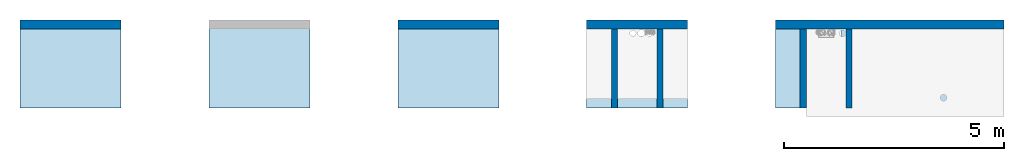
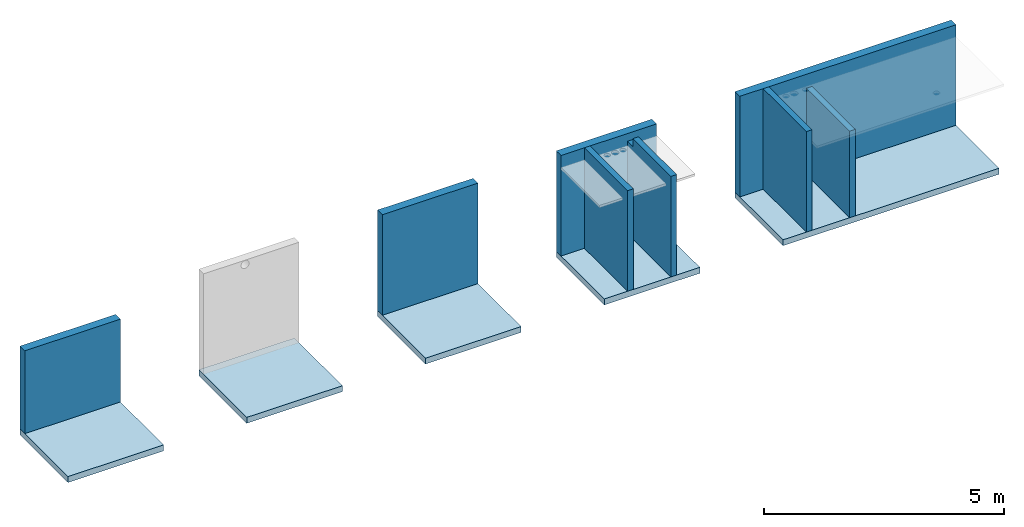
# One storey, part 1 of 3: 8 walls, 5 slabs, 1 opening.
"""IFC4 building model written with IfcOpenShell, lengths in millimetres."""

from ifc_helpers import new_model, entity, si_unit, converted_unit, derived_unit, direction, frame, origin, place, context, subcontext, project, spatial, indexed_curve, outline, extrude, polygons, material, layer, layer_set, type_object, element, save


model = new_model("IFC4")

# Units and contexts
model_context = context("Model", 3, precision=0.01, world=origin(), true_north=direction((6.12303176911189e-17, 1.0)))
body_context = subcontext(model_context, "Body", "Model", "MODEL_VIEW")
ifc_project = project(units=[si_unit("LENGTHUNIT", "METRE", prefix="MILLI"), si_unit("AREAUNIT", "SQUARE_METRE"), si_unit("VOLUMEUNIT", "CUBIC_METRE"), converted_unit("PLANEANGLEUNIT", "DEGREE", entity("IfcRatioMeasure", 0.0174532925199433), si_unit("PLANEANGLEUNIT", "RADIAN"), dimensions=[0, 0, 0, 0, 0, 0, 0]), si_unit("MASSUNIT", "GRAM", prefix="KILO"), derived_unit("MASSDENSITYUNIT", [(si_unit("MASSUNIT", "GRAM", prefix="KILO"), 1), (si_unit("LENGTHUNIT", "METRE"), -3)]), si_unit("TIMEUNIT", "SECOND"), si_unit("FREQUENCYUNIT", "HERTZ"), si_unit("THERMODYNAMICTEMPERATUREUNIT", "DEGREE_CELSIUS"), derived_unit("THERMALTRANSMITTANCEUNIT", [(si_unit("MASSUNIT", "GRAM", prefix="KILO"), 1), (si_unit("THERMODYNAMICTEMPERATUREUNIT", "KELVIN"), -1), (si_unit("TIMEUNIT", "SECOND"), -3)]), derived_unit("VOLUMETRICFLOWRATEUNIT", [(si_unit("LENGTHUNIT", "METRE"), 3), (si_unit("TIMEUNIT", "SECOND"), -1)]), si_unit("ELECTRICCURRENTUNIT", "AMPERE"), si_unit("ELECTRICVOLTAGEUNIT", "VOLT"), si_unit("POWERUNIT", "WATT"), si_unit("FORCEUNIT", "NEWTON", prefix="KILO"), si_unit("ILLUMINANCEUNIT", "LUX"), si_unit("LUMINOUSFLUXUNIT", "LUMEN"), si_unit("LUMINOUSINTENSITYUNIT", "CANDELA"), derived_unit("USERDEFINED", [(si_unit("MASSUNIT", "GRAM", prefix="KILO"), -1), (si_unit("LENGTHUNIT", "METRE"), -2), (si_unit("TIMEUNIT", "SECOND"), 3), (si_unit("LUMINOUSFLUXUNIT", "LUMEN"), 1)]), derived_unit("LINEARVELOCITYUNIT", [(si_unit("LENGTHUNIT", "METRE"), 1), (si_unit("TIMEUNIT", "SECOND"), -1)]), si_unit("PRESSUREUNIT", "PASCAL"), derived_unit("USERDEFINED", [(si_unit("LENGTHUNIT", "METRE"), -2), (si_unit("MASSUNIT", "GRAM", prefix="KILO"), 1), (si_unit("TIMEUNIT", "SECOND"), -2)])], contexts=[model_context])

# Site, building, storey
site_placement = place(None, origin())
site = spatial("IfcSite", under=ifc_project, at=site_placement, Name="Default", CompositionType="ELEMENT")
building_placement = place(site_placement, origin())
building = spatial("IfcBuilding", under=site, at=building_placement, CompositionType="ELEMENT")
storey_placement = place(building_placement, frame((0.0, 0.0, 113.901971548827)))
storey = spatial("IfcBuildingStorey", under=building, at=storey_placement, Name="Level 1", CompositionType="ELEMENT", Elevation=113.901971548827)

# Slabs
ifc_material_1 = material(Name="Default Floor", Category="Materials")
ifc_layer_1 = layer(ifc_material_1, 150.0, Name="Default Floor", Category="Materials")
ifc_layer_set_1 = layer_set([ifc_layer_1], Name="Floor:Generic 150mm (c)")
slab_type_1 = type_object("IfcSlabType", Name="Floor:Generic 150mm (c)", PredefinedType="FLOOR", material=ifc_layer_set_1)
slab_1_placement = place(storey_placement, origin())
element("IfcSlab", 1, at=slab_1_placement, inside=storey, type_object=slab_type_1, Name="Floor:Generic 150mm (c)", ObjectType="Floor:Generic 150mm (c)", PredefinedType="FLOOR", context=body_context, shape_type="SweptSolid", body=[
    extrude(outline(indexed_curve([(-1000.0, -1150.0), (1000.0, -1150.0), (1000.0, 1150.0), (-1000.0, 1150.0), (-1000.0, -1150.0)], self_intersect=False)), frame((-6434.88811146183, 2592.24351176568, 0.0), z_axis=(0.0, 0.0, -1.0), x_axis=(0.0, 1.0, 0.0)), (0.0, 0.0, 1.0), 150.0),
])
slab_type_2 = type_object("IfcSlabType", Name="Floor:Generic 150mm (c)", PredefinedType="FLOOR", material=ifc_layer_set_1)
slab_2_placement = place(storey_placement, origin())
element("IfcSlab", 2, at=slab_2_placement, inside=storey, type_object=slab_type_2, Name="Floor:Generic 150mm (c)", ObjectType="Floor:Generic 150mm (c)", PredefinedType="FLOOR", context=body_context, shape_type="SweptSolid", body=[
    extrude(outline(indexed_curve([(-1000.0, -1150.0), (1000.0, -1150.0), (1000.0, 1150.0), (-1000.0, 1150.0), (-1000.0, -1150.0)], self_intersect=False)), frame((-15034.8881114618, 2592.24351176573, 0.0), z_axis=(0.0, 0.0, -1.0), x_axis=(0.0, 1.0, 0.0)), (0.0, 0.0, 1.0), 150.0),
])
slab_type_3 = type_object("IfcSlabType", Name="Floor:Generic 150mm (c)", PredefinedType="FLOOR", material=ifc_layer_set_1)
slab_3_placement = place(storey_placement, origin())
element("IfcSlab", 3, at=slab_3_placement, inside=storey, type_object=slab_type_3, Name="Floor:Generic 150mm (c)", ObjectType="Floor:Generic 150mm (c)", PredefinedType="FLOOR", context=body_context, shape_type="SweptSolid", body=[
    extrude(outline(indexed_curve([(-1000.0, -1150.0), (1000.0, -1150.0), (1000.0, 1150.0), (-1000.0, 1150.0), (-1000.0, -1150.0)], self_intersect=False)), frame((-10734.8881114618, 2592.24351176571, 0.0), z_axis=(0.0, 0.0, -1.0), x_axis=(0.0, 1.0, 0.0)), (0.0, 0.0, 1.0), 150.0),
])
slab_type_4 = type_object("IfcSlabType", Name="Floor:Generic 150mm (c)", PredefinedType="FLOOR", material=ifc_layer_set_1)
slab_4_placement = place(storey_placement, origin())
element("IfcSlab", 4, at=slab_4_placement, inside=storey, type_object=slab_type_4, Name="Floor:Generic 150mm (c)", ObjectType="Floor:Generic 150mm (c)", PredefinedType="FLOOR", context=body_context, shape_type="SweptSolid", body=[
    extrude(outline(indexed_curve([(-2600.0, -1000.0), (2600.0, -1000.0), (2600.0, 1000.0), (-2600.0, 1000.0), (-2600.0, -1000.0)], self_intersect=False), holes=[indexed_curve([(1097.90010249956, -619.999999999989), (1801.99999999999, -619.999999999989), (1801.99999999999, -799.999999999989), (1097.90010249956, -799.999999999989), (1097.90010249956, -619.999999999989)], self_intersect=False)]), frame((3615.11188853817, 2592.24351176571, -150.0), z_axis=(0.0, 0.0, 1.0), x_axis=(-1.0, 0.0, 0.0)), (0.0, 0.0, 1.0), 150.0),
])
slab_type_5 = type_object("IfcSlabType", Name="Floor:Generic 150mm (c)", PredefinedType="FLOOR", material=ifc_layer_set_1)
slab_5_placement = place(storey_placement, origin())
element("IfcSlab", 5, at=slab_5_placement, inside=storey, type_object=slab_type_5, Name="Floor:Generic 150mm (c)", ObjectType="Floor:Generic 150mm (c)", PredefinedType="FLOOR", context=body_context, shape_type="SweptSolid", body=[
    extrude(outline(indexed_curve([(-1150.0, -1000.0), (1150.0, -1000.0), (1150.0, 1000.0), (-1150.0, 1000.0), (-1150.0, -1000.0)], self_intersect=False), holes=[indexed_curve([(-352.099897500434, -799.999999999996), (-352.099897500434, -619.999999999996), (351.999999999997, -619.999999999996), (351.999999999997, -799.999999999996), (-352.099897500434, -799.999999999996)], self_intersect=False)]), frame((-2134.88811146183, 2592.2435117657, -150.0), z_axis=(0.0, 0.0, 1.0), x_axis=(-1.0, 0.0, 0.0)), (0.0, 0.0, 1.0), 150.0),
])

# Walls
ifc_material_2 = material(Name="Default Wall", Category="Materials")
ifc_layer_2 = layer(ifc_material_2, 200.0, Name="Default Wall", Category="Materials")
ifc_layer_set_2 = layer_set([ifc_layer_2], Name="Basic Wall:Generic - 200mm")
wall_type_1 = type_object("IfcWallType", Name="Basic Wall:Generic - 200mm", PredefinedType="NOTDEFINED", material=ifc_layer_set_2)
wall_1_placement = place(storey_placement, frame((-7584.88811146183, 3492.24351176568, 0.0)))
element("IfcWall", 6, at=wall_1_placement, inside=storey, type_object=wall_type_1, material=ifc_layer_set_2, Name="Basic Wall:Generic - 200mm", ObjectType="Basic Wall:Generic - 200mm", PredefinedType="NOTDEFINED", context=body_context, shape_type="Tessellation", body=[
    polygons([(7.31780616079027e-13, -100.0, 0.0), (2300.0, -100.0, 0.0), (2300.0, -100.0, 2556.96769015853), (1645.0, -100.0, 2556.96769015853), (610.000000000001, -100.0, 2556.96769015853), (7.31780616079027e-13, -100.0, 2556.96769015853), (1.15551123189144e-12, 100.0, 0.0), (1.15551123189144e-12, 100.0, 2556.96769015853), (2300.0, 100.0, 2556.96769015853), (2300.0, 100.0, 0.0)], [[[6, 1, 2, 3, 4, 5]], [[9, 10, 7, 8]], [[2, 1, 7, 10]], [[3, 2, 10, 9]], [[1, 6, 8, 7]], [[4, 3, 9, 8, 6, 5]]], closed=True),
])
wall_2_placement = place(storey_placement, frame((-16184.8881114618, 3492.24351176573, 0.0)))
element("IfcWall", 7, at=wall_2_placement, inside=storey, type_object=wall_type_1, material=ifc_layer_set_2, Name="Basic Wall:Generic - 200mm", ObjectType="Basic Wall:Generic - 200mm", PredefinedType="NOTDEFINED", context=body_context, shape_type="SweptSolid", body=[
    extrude(outline(indexed_curve([(2300.0, 100.0), (-3.29568256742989e-13, 100.0), (3.29568256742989e-13, -100.0), (2300.0, -100.0), (2300.0, 100.0)], self_intersect=False)), origin(), (0.0, 0.0, 1.0), 2106.99999999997),
])
wall_3_placement = place(storey_placement, frame((1015.11188853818, 3492.24351176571, 0.0)))
element("IfcWall", 8, at=wall_3_placement, inside=storey, type_object=wall_type_1, material=ifc_layer_set_2, Name="Basic Wall:Generic - 200mm", ObjectType="Basic Wall:Generic - 200mm", PredefinedType="NOTDEFINED", context=body_context, shape_type="SweptSolid", body=[
    extrude(outline(indexed_curve([(5200.0, 100.0), (-6.24731036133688e-14, 100.0), (6.24731036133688e-14, -100.0), (5200.0, -100.0), (5200.0, 100.0)], self_intersect=False)), origin(), (0.0, 0.0, 1.0), 2556.96769015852),
])
wall_4_placement = place(storey_placement, frame((-3284.88811146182, 3492.2435117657, 0.0)))
element("IfcWall", 9, at=wall_4_placement, inside=storey, type_object=wall_type_1, material=ifc_layer_set_2, Name="Basic Wall:Generic - 200mm", ObjectType="Basic Wall:Generic - 200mm", PredefinedType="NOTDEFINED", context=body_context, shape_type="Tessellation", body=[
    polygons([(2.35608131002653e-12, -100.0, 0.0), (560.000000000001, -100.0, 0.0), (700.000000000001, -100.0, 0.0), (2300.0, -100.0, 0.0), (2300.0, -100.0, 2556.96769015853), (700.000000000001, -100.0, 2556.96769015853), (560.000000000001, -100.0, 2556.96769015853), (-3.51086513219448e-13, -100.0, 2556.96769015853), (2.23837836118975e-12, 100.0, 0.0), (2.23837836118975e-12, 100.0, 2556.96769015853), (2300.0, 100.0, 2556.96769015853), (2300.0, 100.0, 0.0)], [[[1, 2, 3, 4, 5, 6, 7, 8]], [[11, 12, 9, 10]], [[2, 1, 9, 12, 4, 3]], [[5, 4, 12, 11]], [[1, 8, 10, 9]], [[6, 5, 11, 10, 8, 7]]], closed=True),
])
ifc_material_3 = material(Name="Concrete Masonry Units", Category="Materials")
ifc_layer_3 = layer(ifc_material_3, 140.0, Name="Concrete Masonry Units", Category="Materials")
ifc_layer_set_3 = layer_set([ifc_layer_3], Name="Basic Wall:Generic - 140mm Masonry")
wall_type_2 = type_object("IfcWallType", Name="Basic Wall:Generic - 140mm Masonry", PredefinedType="NOTDEFINED", material=ifc_layer_set_3)
wall_5_placement = place(storey_placement, frame((1645.11188853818, 3392.24351176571, 0.0), z_axis=(0.0, 0.0, 1.0), x_axis=(0.0, -1.0, 0.0)))
element("IfcWall", 10, at=wall_5_placement, inside=storey, type_object=wall_type_2, material=ifc_layer_set_3, Name="Basic Wall:Generic - 140mm Masonry", ObjectType="Basic Wall:Generic - 140mm Masonry", PredefinedType="NOTDEFINED", context=body_context, shape_type="SweptSolid", body=[
    extrude(outline(indexed_curve([(1800.0, 70.0000000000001), (-1.26334498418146e-13, 70.0000000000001), (1.26334498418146e-13, -70.0000000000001), (1800.0, -70.0000000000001), (1800.0, 70.0000000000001)], self_intersect=False)), origin(), (0.0, 0.0, 1.0), 2556.96769015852),
])
wall_6_placement = place(storey_placement, frame((2685.11188853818, 3392.2435117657, 0.0), z_axis=(0.0, 0.0, 1.0), x_axis=(0.0, -1.0, 0.0)))
element("IfcWall", 11, at=wall_6_placement, inside=storey, type_object=wall_type_2, material=ifc_layer_set_3, Name="Basic Wall:Generic - 140mm Masonry", ObjectType="Basic Wall:Generic - 140mm Masonry", PredefinedType="NOTDEFINED", context=body_context, shape_type="SweptSolid", body=[
    extrude(outline(indexed_curve([(1799.99999999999, 69.9999999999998), (-1.26334498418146e-13, 69.9999999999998), (1.26334498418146e-13, -69.9999999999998), (1799.99999999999, -69.9999999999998), (1799.99999999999, 69.9999999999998)], self_intersect=False)), origin(), (0.0, 0.0, 1.0), 2200.00000000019),
])
wall_7_placement = place(storey_placement, frame((-2654.88811146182, 3392.2435117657, 0.0), z_axis=(0.0, 0.0, 1.0), x_axis=(0.0, -1.0, 0.0)))
element("IfcWall", 12, at=wall_7_placement, inside=storey, type_object=wall_type_2, material=ifc_layer_set_3, Name="Basic Wall:Generic - 140mm Masonry", ObjectType="Basic Wall:Generic - 140mm Masonry", PredefinedType="NOTDEFINED", context=body_context, shape_type="Tessellation", body=[
    polygons([(0.0, -70.0000000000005, 0.0), (1800.0, -70.0000000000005, 0.0), (1800.0, -70.0000000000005, 2556.96769015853), (5.41433564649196e-13, -70.0000000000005, 2556.96769015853), (5.41433564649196e-13, 69.9999999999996, 0.0), (5.41433564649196e-13, 69.9999999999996, 2556.96769015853), (1800.00000000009, 69.9999999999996, 2556.96769015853), (1800.0, 69.9999999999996, 0.0)], [[[4, 1, 2, 3]], [[7, 8, 5, 6]], [[2, 1, 5, 8]], [[3, 2, 8, 7]], [[5, 1, 4, 6]], [[3, 7, 6, 4]]], closed=True),
])

# Wall, opening
wall_8_placement = place(storey_placement, frame((-1614.88811146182, 3392.24351176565, 0.0), z_axis=(0.0, 0.0, 1.0), x_axis=(0.0, -1.0, 0.0)))
wall_8 = element("IfcWall", 13, at=wall_8_placement, inside=storey, type_object=wall_type_2, material=ifc_layer_set_3, Name="Basic Wall:Generic - 140mm Masonry", ObjectType="Basic Wall:Generic - 140mm Masonry", PredefinedType="NOTDEFINED", context=body_context, shape_type="Tessellation", body=[
    polygons([(5.41433564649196e-13, -70.0, 0.0), (1799.99999999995, -70.0, 0.0), (1799.99999999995, -70.0, 2556.99999999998), (216.659072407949, -69.9999999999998, 2556.99999999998), (216.659072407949, -69.9999999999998, 2361.99999999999), (5.41433564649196e-13, -70.0, 2361.99999999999), (0.0, 70.0000000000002, 0.0), (0.0, 70.0000000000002, 2361.99999999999), (216.659072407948, 70.0000000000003, 2361.99999999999), (216.659072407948, 70.0000000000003, 2556.99999999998), (1799.99999999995, 70.0000000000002, 2556.99999999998), (1799.99999999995, 70.0000000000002, 0.0)], [[[5, 6, 1, 2, 3, 4]], [[11, 12, 7, 8, 9, 10]], [[2, 1, 7, 12]], [[3, 2, 12, 11]], [[4, 3, 11, 10]], [[6, 5, 9, 8]], [[1, 6, 8, 7]], [[5, 4, 10, 9]]], closed=True),
])
opening_placement = place(wall_8_placement, origin())
element("IfcOpeningElement", 14, at=opening_placement, cuts=wall_8, Name="Basic Wall:Generic - 140mm Masonry", ObjectType="Opening", PredefinedType="OPENING", context=body_context, shape_type="SweptSolid", body=[
    extrude(outline(indexed_curve([(-108.329536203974, -97.4999999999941), (108.329536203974, -97.4999999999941), (108.329536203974, 97.4999999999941), (-108.329536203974, 97.4999999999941), (-108.329536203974, -97.4999999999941)], self_intersect=False)), frame((108.329536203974, 70.0, 2459.49999999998), z_axis=(0.0, -1.0, 0.0), x_axis=(-1.0, 0.0, 0.0)), (0.0, 0.0, 1.0), 140.0),
])

save(model, "model.ifc")
